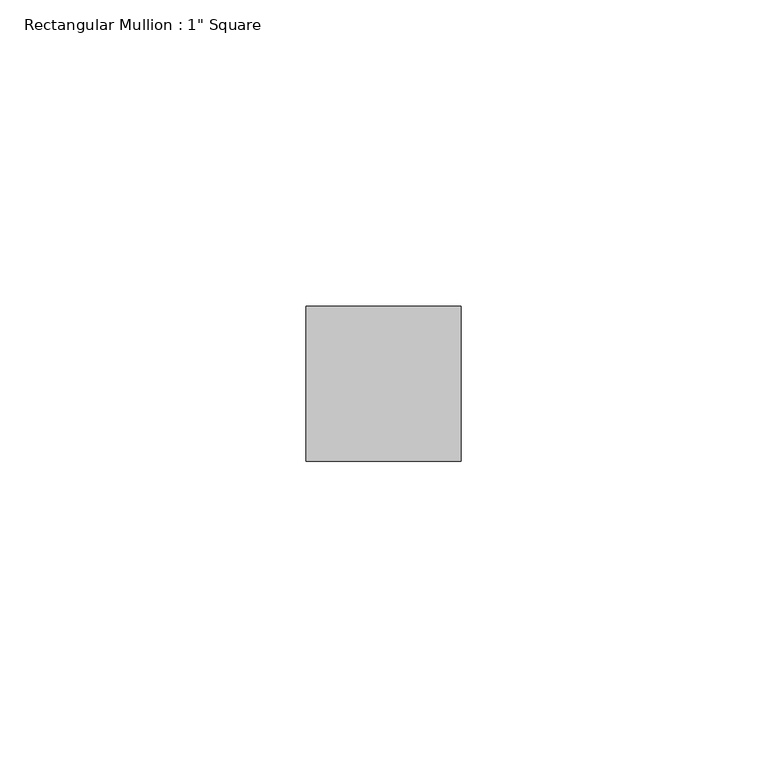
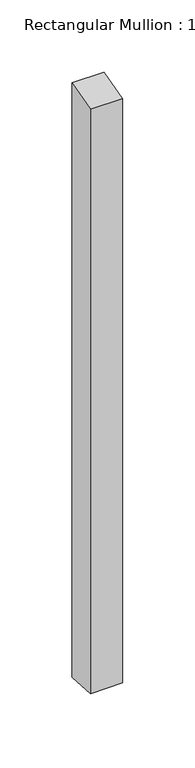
"""IFC4 building model written with IfcOpenShell, lengths in millimetres: member geometry."""

from ifc_helpers import new_model, si_unit, origin, place, context, project, spatial, faceted_brep, source, transform, mapped, element, save


def member_b70cd57a(model_context):
    return source(origin(), model_context, "Body", "Brep", [
        faceted_brep([(-25.4, 12.7, 3.4156629), (0.0, 12.7, 3.3410801), (0.0, 12.7, -497.5819387), (-25.4, 12.7, -497.6014484), (-25.4, -12.7, -3.2664973), (-25.4, -12.7, -495.8534998), (0.0, -12.7, -3.3410801), (0.0, -12.7, -495.8339901)], [[[0, 1, 2, 3]], [[4, 0, 3, 5]], [[6, 4, 5, 7]], [[1, 6, 7, 2]], [[1, 0, 4, 6]], [[2, 7, 5, 3]]]),
    ])


if __name__ == "__main__":
    model = new_model("IFC4")
    model_context = context("Model", 3, world=origin())
    ifc_project = project(units=[si_unit("LENGTHUNIT", "METRE", prefix="MILLI")], contexts=[model_context])
    site = spatial("IfcSite", under=ifc_project)
    building = spatial("IfcBuilding", under=site)
    placement = place(None, origin())
    member_shape = member_b70cd57a(model_context)
    element("IfcMember", 1, ObjectType="Rectangular Mullion : 1\" Square", at=placement, inside=building, context=model_context, shape_type="MappedRepresentation", body=[
        mapped(member_shape, transform((0.0, 0.0, 0.0), x_axis=(1.0, 0.0, 0.0), y_axis=(0.0, 1.0, 0.0), z_axis=(0.0, 0.0, 1.0))),
    ])
    save(model, "model.ifc")
